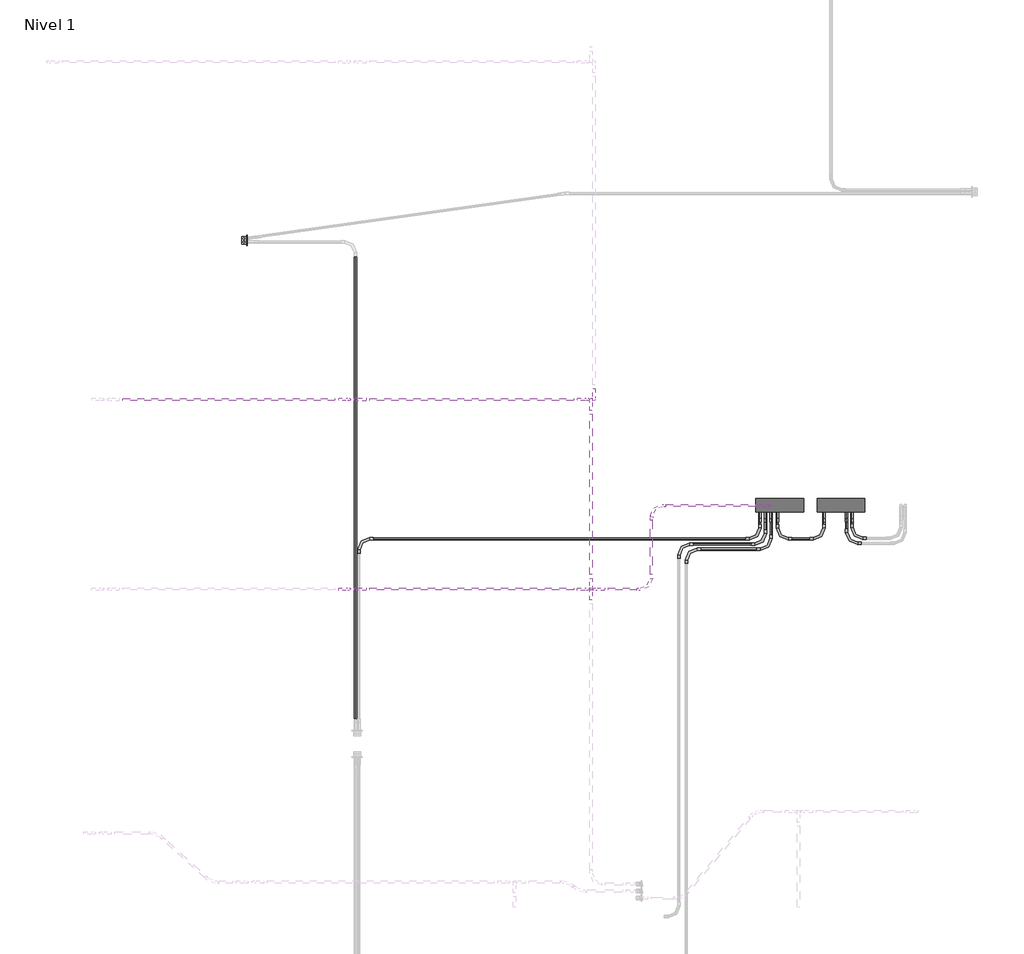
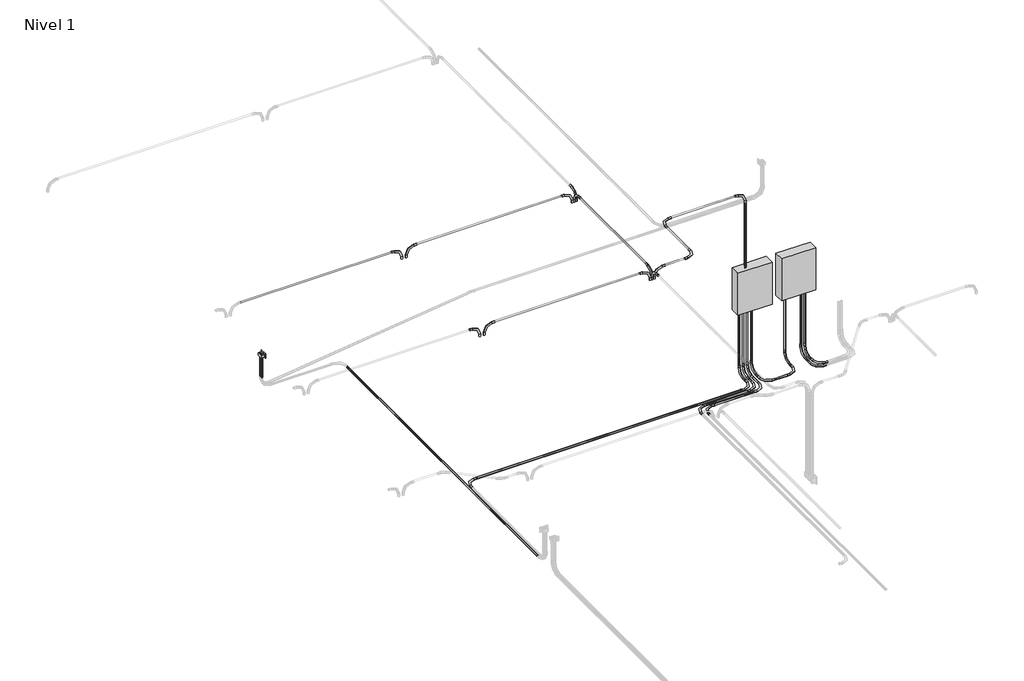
# One storey, part 3 of 4: 31 cable carrier fittings, 29 cable carrier segments, 3 proxies.
"""IFC4 building model written with IfcOpenShell, lengths in millimetres."""

from ifc_helpers import new_model, si_unit, point, frame, frame_2d, origin, place, context, project, spatial, circle_curve, trimmed, segment, composite_curve, outline, extrude, transform, mapped, element, save
from components import proxy_125_a_fe578df2, gfci_180f1b41, m_codo_de_tubo_extremo_liso_pvc_9da73e12, m_codo_de_tubo_extremo_liso_pvc_102f0f41, m_codo_de_tubo_extremo_liso_pvc_ae0e2309

model = new_model("IFC4")

# Units and contexts
model_context = context("Model", 3, world=origin())
ifc_project = project(units=[si_unit("LENGTHUNIT", "METRE", prefix="MILLI")], contexts=[model_context])

# Site, building, storey
site = spatial("IfcSite", under=ifc_project)
building = spatial("IfcBuilding", under=site)
storey = spatial("IfcBuildingStorey", under=building, Name="Nivel 1", Elevation=0.0)

# Proxies
placement = place(None, origin())
proxy_125_a_shape = proxy_125_a_fe578df2(model_context)
element("IfcBuildingElementProxy", 1, Name="M_Cuadro de control de accesorios e iluminación - 480V MLO : 125 A", ObjectType="M_Cuadro de control de accesorios e iluminación - 480V MLO : 125 A", at=placement, inside=storey, context=model_context, shape_type="MappedRepresentation", body=[
    mapped(proxy_125_a_shape, transform((7120.4076022, 9335.0, 826.1274047), x_axis=(1.0, 0.0, 0.0), y_axis=(0.0, 0.0, 1.0), z_axis=(0.0, -1.0, 0.0))),
])
element("IfcBuildingElementProxy", 2, Name="M_Cuadro de control de accesorios e iluminación - 480V MLO : 125 A", ObjectType="M_Cuadro de control de accesorios e iluminación - 480V MLO : 125 A", at=placement, inside=storey, context=model_context, shape_type="MappedRepresentation", body=[
    mapped(proxy_125_a_shape, transform((7770.5429225, 9335.0, 826.1274047), x_axis=(1.0, 0.0, 0.0), y_axis=(0.0, 0.0, 1.0), z_axis=(0.0, -1.0, 0.0))),
])
gfci_shape = gfci_180f1b41(model_context)
element("IfcBuildingElementProxy", 3, Name="Tomacorriente doble 220V : GFCI", ObjectType="Tomacorriente doble 220V : GFCI", at=placement, inside=storey, context=model_context, shape_type="MappedRepresentation", body=[
    mapped(gfci_shape, transform((1465.0, 12220.9929343, 400.0), x_axis=(0.0, 0.0, 1.0), y_axis=(0.0, -1.0, 0.0), z_axis=(1.0, 0.0, 0.0))),
])

# Cable carrier fittings
m_codo_de_tubo_extremo_liso_pvc_shape = m_codo_de_tubo_extremo_liso_pvc_9da73e12(model_context)
element("IfcCableCarrierFitting", 4, ObjectType="M_Codo de tubo - Extremo liso - PVC : CODO POTENCIA", at=placement, inside=storey, context=model_context, shape_type="MappedRepresentation", body=[
    mapped(m_codo_de_tubo_extremo_liso_pvc_shape, transform((6910.094316, 9380.8495563, -99.99), x_axis=(0.0, 1.0, 0.0), y_axis=(0.0, 0.0, 1.0), z_axis=(1.0, 0.0, 0.0))),
])
element("IfcCableCarrierFitting", 5, ObjectType="M_Codo de tubo - Extremo liso - PVC : CODO POTENCIA", at=placement, inside=storey, context=model_context, shape_type="MappedRepresentation", body=[
    mapped(m_codo_de_tubo_extremo_liso_pvc_shape, transform((6970.094316, 9380.8495563, -99.99), x_axis=(0.0, 1.0, 0.0), y_axis=(0.0, 0.0, 1.0), z_axis=(1.0, 0.0, 0.0))),
])
element("IfcCableCarrierFitting", 6, ObjectType="M_Codo de tubo - Extremo liso - PVC : CODO POTENCIA", at=placement, inside=storey, context=model_context, shape_type="MappedRepresentation", body=[
    mapped(m_codo_de_tubo_extremo_liso_pvc_shape, transform((7030.094316, 9380.8495563, -99.99), x_axis=(0.0, 1.0, 0.0), y_axis=(0.0, 0.0, 1.0), z_axis=(1.0, 0.0, 0.0))),
])
element("IfcCableCarrierFitting", 7, ObjectType="M_Codo de tubo - Extremo liso - PVC : CODO POTENCIA", at=placement, inside=storey, context=model_context, shape_type="MappedRepresentation", body=[
    mapped(m_codo_de_tubo_extremo_liso_pvc_shape, transform((7095.094316, 9380.8495563, -99.99), x_axis=(0.0, 1.0, 0.0), y_axis=(0.0, 0.0, 1.0), z_axis=(1.0, 0.0, 0.0))),
])
element("IfcCableCarrierFitting", 8, ObjectType="M_Codo de tubo - Extremo liso - PVC : CODO POTENCIA", at=placement, inside=storey, context=model_context, shape_type="MappedRepresentation", body=[
    mapped(m_codo_de_tubo_extremo_liso_pvc_shape, transform((6910.094316, 9050.8495563, -99.99), x_axis=(1.0, 0.0, 0.0), y_axis=(0.0, 1.0, 0.0), z_axis=(0.0, 0.0, 1.0))),
])
element("IfcCableCarrierFitting", 9, ObjectType="M_Codo de tubo - Extremo liso - PVC : CODO POTENCIA", at=placement, inside=storey, context=model_context, shape_type="MappedRepresentation", body=[
    mapped(m_codo_de_tubo_extremo_liso_pvc_shape, transform((2654.0180466, 9050.8495563, -99.99), x_axis=(-1.0, 0.0, 0.0), y_axis=(0.0, -1.0, 0.0), z_axis=(0.0, 0.0, 1.0))),
])
element("IfcCableCarrierFitting", 10, ObjectType="M_Codo de tubo - Extremo liso - PVC : CODO POTENCIA", at=placement, inside=storey, context=model_context, shape_type="MappedRepresentation", body=[
    mapped(m_codo_de_tubo_extremo_liso_pvc_shape, transform((6970.094316, 8995.8495563, -99.99), x_axis=(1.0, 0.0, 0.0), y_axis=(0.0, 1.0, 0.0), z_axis=(0.0, 0.0, 1.0))),
])
element("IfcCableCarrierFitting", 11, ObjectType="M_Codo de tubo - Extremo liso - PVC : CODO POTENCIA", at=placement, inside=storey, context=model_context, shape_type="MappedRepresentation", body=[
    mapped(m_codo_de_tubo_extremo_liso_pvc_shape, transform((6050.094316, 8995.8495563, -99.99), x_axis=(-1.0, 0.0, 0.0), y_axis=(0.0, -1.0, 0.0), z_axis=(0.0, 0.0, 1.0))),
])
element("IfcCableCarrierFitting", 12, ObjectType="M_Codo de tubo - Extremo liso - PVC : CODO POTENCIA", at=placement, inside=storey, context=model_context, shape_type="MappedRepresentation", body=[
    mapped(m_codo_de_tubo_extremo_liso_pvc_shape, transform((7886.8510983, 9055.836249, -99.99), x_axis=(0.0, -1.0, 0.0), y_axis=(1.0, 0.0, 0.0), z_axis=(0.0, 0.0, 1.0))),
])
element("IfcCableCarrierFitting", 13, ObjectType="M_Codo de tubo - Extremo liso - PVC : CODO POTENCIA", at=placement, inside=storey, context=model_context, shape_type="MappedRepresentation", body=[
    mapped(m_codo_de_tubo_extremo_liso_pvc_shape, transform((7886.8510983, 9380.8495563, -99.99), x_axis=(0.0, 0.0, -1.0), y_axis=(0.0, -1.0, 0.0), z_axis=(-1.0, 0.0, 0.0))),
])
element("IfcCableCarrierFitting", 14, ObjectType="M_Codo de tubo - Extremo liso - PVC : CODO POTENCIA", at=placement, inside=storey, context=model_context, shape_type="MappedRepresentation", body=[
    mapped(m_codo_de_tubo_extremo_liso_pvc_shape, transform((7831.8510983, 9003.336249, -99.99), x_axis=(0.0, -1.0, 0.0), y_axis=(1.0, 0.0, 0.0), z_axis=(0.0, 0.0, 1.0))),
])
element("IfcCableCarrierFitting", 15, ObjectType="M_Codo de tubo - Extremo liso - PVC : CODO POTENCIA", at=placement, inside=storey, context=model_context, shape_type="MappedRepresentation", body=[
    mapped(m_codo_de_tubo_extremo_liso_pvc_shape, transform((7831.8510983, 9380.8495563, -99.99), x_axis=(0.0, 1.0, 0.0), y_axis=(0.0, 0.0, 1.0), z_axis=(1.0, 0.0, 0.0))),
])
element("IfcCableCarrierFitting", 16, ObjectType="M_Codo de tubo - Extremo liso - PVC : CODO POTENCIA", at=placement, inside=storey, context=model_context, shape_type="MappedRepresentation", body=[
    mapped(m_codo_de_tubo_extremo_liso_pvc_shape, transform((7590.094316, 9380.8495563, -99.99), x_axis=(0.0, 1.0, 0.0), y_axis=(0.0, 0.0, 1.0), z_axis=(1.0, 0.0, 0.0))),
])
element("IfcCableCarrierFitting", 17, ObjectType="M_Codo de tubo - Extremo liso - PVC : CODO POTENCIA", at=placement, inside=storey, context=model_context, shape_type="MappedRepresentation", body=[
    mapped(m_codo_de_tubo_extremo_liso_pvc_shape, transform((7590.094316, 9050.8495563, -99.99), x_axis=(1.0, 0.0, 0.0), y_axis=(0.0, 1.0, 0.0), z_axis=(0.0, 0.0, 1.0))),
])
element("IfcCableCarrierFitting", 18, ObjectType="M_Codo de tubo - Extremo liso - PVC : CODO POTENCIA", at=placement, inside=storey, context=model_context, shape_type="MappedRepresentation", body=[
    mapped(m_codo_de_tubo_extremo_liso_pvc_shape, transform((7095.094316, 9050.8495563, -99.99), x_axis=(0.0, -1.0, 0.0), y_axis=(1.0, 0.0, 0.0), z_axis=(0.0, 0.0, 1.0))),
])
element("IfcCableCarrierFitting", 19, ObjectType="M_Codo de tubo - Extremo liso - PVC : CODO POTENCIA", at=placement, inside=storey, context=model_context, shape_type="MappedRepresentation", body=[
    mapped(m_codo_de_tubo_extremo_liso_pvc_shape, transform((7030.094316, 8940.8495563, -99.99), x_axis=(1.0, 0.0, 0.0), y_axis=(0.0, 1.0, 0.0), z_axis=(0.0, 0.0, 1.0))),
])
element("IfcCableCarrierFitting", 20, ObjectType="M_Codo de tubo - Extremo liso - PVC : CODO POTENCIA", at=placement, inside=storey, context=model_context, shape_type="MappedRepresentation", body=[
    mapped(m_codo_de_tubo_extremo_liso_pvc_shape, transform((6130.094316, 8940.8495563, -99.99), x_axis=(-1.0, 0.0, 0.0), y_axis=(0.0, -1.0, 0.0), z_axis=(0.0, 0.0, 1.0))),
])
element("IfcCableCarrierFitting", 21, ObjectType="M_Codo de tubo - Extremo liso - PVC : CODO ILUMINACION", at=placement, inside=storey, context=model_context, shape_type="MappedRepresentation", body=[
    mapped(m_codo_de_tubo_extremo_liso_pvc_shape, transform((2616.5510631, 10530.0787918, 2700.0), x_axis=(0.0, 0.0, 1.0), y_axis=(1.0, 0.0, 0.0), z_axis=(0.0, 1.0, 0.0))),
])
element("IfcCableCarrierFitting", 22, ObjectType="M_Codo de tubo - Extremo liso - PVC : CODO ILUMINACION", at=placement, inside=storey, context=model_context, shape_type="MappedRepresentation", body=[
    mapped(m_codo_de_tubo_extremo_liso_pvc_shape, transform((5149.9573804, 8518.256128, 2700.0), x_axis=(0.0, 0.0, 1.0), y_axis=(1.0, 0.0, 0.0), z_axis=(0.0, 1.0, 0.0))),
])
element("IfcCableCarrierFitting", 23, ObjectType="M_Codo de tubo - Extremo liso - PVC : CODO ILUMINACION", at=placement, inside=storey, context=model_context, shape_type="MappedRepresentation", body=[
    mapped(m_codo_de_tubo_extremo_liso_pvc_shape, transform((2616.5510631, 8518.256128, 2700.0), x_axis=(0.0, 0.0, 1.0), y_axis=(1.0, 0.0, 0.0), z_axis=(0.0, 1.0, 0.0))),
])
element("IfcCableCarrierFitting", 24, ObjectType="M_Codo de tubo - Extremo liso - PVC : CODO ILUMINACION", at=placement, inside=storey, context=model_context, shape_type="MappedRepresentation", body=[
    mapped(m_codo_de_tubo_extremo_liso_pvc_shape, transform((5149.4294415, 10530.8861139, 2700.0), x_axis=(0.0, 0.0, 1.0), y_axis=(0.0, 1.0, 0.0), z_axis=(-1.0, 0.0, 0.0))),
])
element("IfcCableCarrierFitting", 25, ObjectType="M_Codo de tubo - Extremo liso - PVC : CODO ILUMINACION", at=placement, inside=storey, context=model_context, shape_type="MappedRepresentation", body=[
    mapped(m_codo_de_tubo_extremo_liso_pvc_shape, transform((5118.2146465, 8518.3958196, 2700.0), x_axis=(0.0, 0.0, 1.0), y_axis=(0.0, -1.0, 0.0), z_axis=(1.0, 0.0, 0.0))),
])
element("IfcCableCarrierFitting", 26, ObjectType="M_Codo de tubo - Extremo liso - PVC : CODO ILUMINACION", at=placement, inside=storey, context=model_context, shape_type="MappedRepresentation", body=[
    mapped(m_codo_de_tubo_extremo_liso_pvc_shape, transform((7017.4871271, 9404.2031369, 2700.0), x_axis=(0.9999913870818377, -0.004150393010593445, 0.0), y_axis=(0.0, 0.0, -1.0), z_axis=(0.004150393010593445, 0.9999913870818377, 0.0))),
])
element("IfcCableCarrierFitting", 27, ObjectType="M_Codo de tubo - Extremo liso - PVC : CODO ILUMINACION", at=placement, inside=storey, context=model_context, shape_type="MappedRepresentation", body=[
    mapped(m_codo_de_tubo_extremo_liso_pvc_shape, transform((5757.4871271, 8518.256128, 2700.0), x_axis=(1.0, 0.0, 0.0), y_axis=(0.0, 1.0, 0.0), z_axis=(0.0, 0.0, 1.0))),
])
element("IfcCableCarrierFitting", 28, ObjectType="M_Codo de tubo - Extremo liso - PVC : CODO ILUMINACION", at=placement, inside=storey, context=model_context, shape_type="MappedRepresentation", body=[
    mapped(m_codo_de_tubo_extremo_liso_pvc_shape, transform((5118.2146465, 10530.2184834, 2700.0), x_axis=(0.0, 0.0, 1.0), y_axis=(0.0, -1.0, 0.0), z_axis=(1.0, 0.0, 0.0))),
])
m_codo_de_tubo_extremo_liso_pvc_2_shape = m_codo_de_tubo_extremo_liso_pvc_102f0f41(model_context)
element("IfcCableCarrierFitting", 29, ObjectType="M_Codo de tubo - Extremo liso - PVC : CODO ILUMINACION", at=placement, inside=storey, context=model_context, shape_type="MappedRepresentation", body=[
    mapped(m_codo_de_tubo_extremo_liso_pvc_2_shape, transform((2553.0655953, 10530.0787918, 2700.0), x_axis=(0.0, 0.0, 1.0), y_axis=(1.0, 0.0, 0.0), z_axis=(0.0, 1.0, 0.0))),
])
element("IfcCableCarrierFitting", 30, ObjectType="M_Codo de tubo - Extremo liso - PVC : CODO ILUMINACION", at=placement, inside=storey, context=model_context, shape_type="MappedRepresentation", body=[
    mapped(m_codo_de_tubo_extremo_liso_pvc_2_shape, transform((5086.4719126, 10530.0787918, 2700.0), x_axis=(0.0, 0.0, 1.0), y_axis=(1.0, 0.0, 0.0), z_axis=(0.0, 1.0, 0.0))),
])
element("IfcCableCarrierFitting", 31, ObjectType="M_Codo de tubo - Extremo liso - PVC : CODO ILUMINACION", at=placement, inside=storey, context=model_context, shape_type="MappedRepresentation", body=[
    mapped(m_codo_de_tubo_extremo_liso_pvc_2_shape, transform((5086.4719126, 8518.256128, 2700.0), x_axis=(0.0, 0.0, 1.0), y_axis=(1.0, 0.0, 0.0), z_axis=(0.0, 1.0, 0.0))),
])
element("IfcCableCarrierFitting", 32, ObjectType="M_Codo de tubo - Extremo liso - PVC : CODO ILUMINACION", at=placement, inside=storey, context=model_context, shape_type="MappedRepresentation", body=[
    mapped(m_codo_de_tubo_extremo_liso_pvc_2_shape, transform((2553.0655953, 8518.256128, 2700.0), x_axis=(0.0, 0.0, 1.0), y_axis=(1.0, 0.0, 0.0), z_axis=(0.0, 1.0, 0.0))),
])
element("IfcCableCarrierFitting", 33, ObjectType="M_Codo de tubo - Extremo liso - PVC : CODO ILUMINACION", at=placement, inside=storey, context=model_context, shape_type="MappedRepresentation", body=[
    mapped(m_codo_de_tubo_extremo_liso_pvc_2_shape, transform((5118.2146465, 8518.3958196, 2700.0), x_axis=(0.0, 0.0, 1.0), y_axis=(0.0, -1.0, 0.0), z_axis=(1.0, 0.0, 0.0))),
])
m_codo_de_tubo_extremo_liso_pvc_3_shape = m_codo_de_tubo_extremo_liso_pvc_ae0e2309(model_context)
element("IfcCableCarrierFitting", 34, ObjectType="M_Codo de tubo - Extremo liso - PVC : CODO ILUMINACION", at=placement, inside=storey, context=model_context, shape_type="MappedRepresentation", body=[
    mapped(m_codo_de_tubo_extremo_liso_pvc_3_shape, transform((5757.4871271, 9404.2031369, 2700.0), x_axis=(-0.9999998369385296, -0.0005710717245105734, 0.0), y_axis=(0.0005710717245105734, -0.9999998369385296, 0.0), z_axis=(0.0, 0.0, 1.0))),
])

# Cable carrier segments
element("IfcCableCarrierSegment", 35, ObjectType="PVC-SEL, POTENCIA", at=placement, inside=storey, context=model_context, shape_type="SweptSolid", body=[
    extrude(outline(composite_curve([segment(trimmed(circle_curve(frame_2d((-99.99, 6910.094316)), 11.71), [point((-99.99, 6898.384316))], [point((-111.7, 6910.094316))], False, "CARTESIAN"), True, "CONTINUOUS"), segment(trimmed(circle_curve(frame_2d((-99.99, 6910.094316)), 11.71), [point((-111.7, 6910.094316))], [point((-99.99, 6921.804316))], False, "CARTESIAN"), True, "CONTINUOUS"), segment(trimmed(circle_curve(frame_2d((-99.99, 6910.094316)), 11.71), [point((-99.99, 6921.804316))], [point((-88.28, 6910.094316))], False, "CARTESIAN"), True, "CONTINUOUS"), segment(trimmed(circle_curve(frame_2d((-99.99, 6910.094316)), 11.71), [point((-88.28, 6910.094316))], [point((-99.99, 6898.384316))], False, "CARTESIAN"), True, "CONTINUOUS")], self_intersect=False)), frame((0.0, 9203.2495563, 0.0), z_axis=(0.0, 1.0, 0.0), x_axis=(0.0, 0.0, 1.0)), (0.0, 0.0, 1.0), 25.2),
])
element("IfcCableCarrierSegment", 36, ObjectType="PVC-SEL, POTENCIA", at=placement, inside=storey, context=model_context, shape_type="SweptSolid", body=[
    extrude(outline(composite_curve([segment(trimmed(circle_curve(frame_2d((6910.094316, 9380.8495563)), 11.71), [point((6898.384316, 9380.8495563))], [point((6910.094316, 9392.5595563))], False, "CARTESIAN"), True, "CONTINUOUS"), segment(trimmed(circle_curve(frame_2d((6910.094316, 9380.8495563)), 11.71), [point((6910.094316, 9392.5595563))], [point((6921.804316, 9380.8495563))], False, "CARTESIAN"), True, "CONTINUOUS"), segment(trimmed(circle_curve(frame_2d((6910.094316, 9380.8495563)), 11.71), [point((6921.804316, 9380.8495563))], [point((6910.094316, 9369.1395563))], False, "CARTESIAN"), True, "CONTINUOUS"), segment(trimmed(circle_curve(frame_2d((6910.094316, 9380.8495563)), 11.71), [point((6910.094316, 9369.1395563))], [point((6898.384316, 9380.8495563))], False, "CARTESIAN"), True, "CONTINUOUS")], self_intersect=False)), frame((0.0, 0.0, 52.41), z_axis=(0.0, 0.0, 1.0), x_axis=(1.0, 0.0, 0.0)), (0.0, 0.0, 1.0), 817.6),
])
element("IfcCableCarrierSegment", 37, ObjectType="PVC-SEL, POTENCIA", at=placement, inside=storey, context=model_context, shape_type="SweptSolid", body=[
    extrude(outline(composite_curve([segment(trimmed(circle_curve(frame_2d((-99.99, 6970.094316)), 11.71), [point((-99.99, 6958.384316))], [point((-111.7, 6970.094316))], False, "CARTESIAN"), True, "CONTINUOUS"), segment(trimmed(circle_curve(frame_2d((-99.99, 6970.094316)), 11.71), [point((-111.7, 6970.094316))], [point((-99.99, 6981.804316))], False, "CARTESIAN"), True, "CONTINUOUS"), segment(trimmed(circle_curve(frame_2d((-99.99, 6970.094316)), 11.71), [point((-99.99, 6981.804316))], [point((-88.28, 6970.094316))], False, "CARTESIAN"), True, "CONTINUOUS"), segment(trimmed(circle_curve(frame_2d((-99.99, 6970.094316)), 11.71), [point((-88.28, 6970.094316))], [point((-99.99, 6958.384316))], False, "CARTESIAN"), True, "CONTINUOUS")], self_intersect=False)), frame((0.0, 9148.2495563, 0.0), z_axis=(0.0, 1.0, 0.0), x_axis=(0.0, 0.0, 1.0)), (0.0, 0.0, 1.0), 80.2),
])
element("IfcCableCarrierSegment", 38, ObjectType="PVC-SEL, POTENCIA", at=placement, inside=storey, context=model_context, shape_type="SweptSolid", body=[
    extrude(outline(composite_curve([segment(trimmed(circle_curve(frame_2d((6970.094316, 9380.8495563)), 11.71), [point((6958.384316, 9380.8495563))], [point((6970.094316, 9392.5595563))], False, "CARTESIAN"), True, "CONTINUOUS"), segment(trimmed(circle_curve(frame_2d((6970.094316, 9380.8495563)), 11.71), [point((6970.094316, 9392.5595563))], [point((6981.804316, 9380.8495563))], False, "CARTESIAN"), True, "CONTINUOUS"), segment(trimmed(circle_curve(frame_2d((6970.094316, 9380.8495563)), 11.71), [point((6981.804316, 9380.8495563))], [point((6970.094316, 9369.1395563))], False, "CARTESIAN"), True, "CONTINUOUS"), segment(trimmed(circle_curve(frame_2d((6970.094316, 9380.8495563)), 11.71), [point((6970.094316, 9369.1395563))], [point((6958.384316, 9380.8495563))], False, "CARTESIAN"), True, "CONTINUOUS")], self_intersect=False)), frame((0.0, 0.0, 52.41), z_axis=(0.0, 0.0, 1.0), x_axis=(1.0, 0.0, 0.0)), (0.0, 0.0, 1.0), 817.6),
])
element("IfcCableCarrierSegment", 39, ObjectType="PVC-SEL, POTENCIA", at=placement, inside=storey, context=model_context, shape_type="SweptSolid", body=[
    extrude(outline(composite_curve([segment(trimmed(circle_curve(frame_2d((-99.99, 7030.094316)), 11.71), [point((-99.99, 7018.384316))], [point((-111.7, 7030.094316))], False, "CARTESIAN"), True, "CONTINUOUS"), segment(trimmed(circle_curve(frame_2d((-99.99, 7030.094316)), 11.71), [point((-111.7, 7030.094316))], [point((-99.99, 7041.804316))], False, "CARTESIAN"), True, "CONTINUOUS"), segment(trimmed(circle_curve(frame_2d((-99.99, 7030.094316)), 11.71), [point((-99.99, 7041.804316))], [point((-88.28, 7030.094316))], False, "CARTESIAN"), True, "CONTINUOUS"), segment(trimmed(circle_curve(frame_2d((-99.99, 7030.094316)), 11.71), [point((-88.28, 7030.094316))], [point((-99.99, 7018.384316))], False, "CARTESIAN"), True, "CONTINUOUS")], self_intersect=False)), frame((0.0, 9093.2495563, 0.0), z_axis=(0.0, 1.0, 0.0), x_axis=(0.0, 0.0, 1.0)), (0.0, 0.0, 1.0), 135.2),
])
element("IfcCableCarrierSegment", 40, ObjectType="PVC-SEL, POTENCIA", at=placement, inside=storey, context=model_context, shape_type="SweptSolid", body=[
    extrude(outline(composite_curve([segment(trimmed(circle_curve(frame_2d((7030.094316, 9380.8495563)), 11.71), [point((7018.384316, 9380.8495563))], [point((7030.094316, 9392.5595563))], False, "CARTESIAN"), True, "CONTINUOUS"), segment(trimmed(circle_curve(frame_2d((7030.094316, 9380.8495563)), 11.71), [point((7030.094316, 9392.5595563))], [point((7041.804316, 9380.8495563))], False, "CARTESIAN"), True, "CONTINUOUS"), segment(trimmed(circle_curve(frame_2d((7030.094316, 9380.8495563)), 11.71), [point((7041.804316, 9380.8495563))], [point((7030.094316, 9369.1395563))], False, "CARTESIAN"), True, "CONTINUOUS"), segment(trimmed(circle_curve(frame_2d((7030.094316, 9380.8495563)), 11.71), [point((7030.094316, 9369.1395563))], [point((7018.384316, 9380.8495563))], False, "CARTESIAN"), True, "CONTINUOUS")], self_intersect=False)), frame((0.0, 0.0, 52.41), z_axis=(0.0, 0.0, 1.0), x_axis=(1.0, 0.0, 0.0)), (0.0, 0.0, 1.0), 817.6),
])
element("IfcCableCarrierSegment", 41, ObjectType="PVC-SEL, POTENCIA", at=placement, inside=storey, context=model_context, shape_type="SweptSolid", body=[
    extrude(outline(composite_curve([segment(trimmed(circle_curve(frame_2d((-99.99, 7095.094316)), 11.71), [point((-99.99, 7083.384316))], [point((-111.7, 7095.094316))], False, "CARTESIAN"), True, "CONTINUOUS"), segment(trimmed(circle_curve(frame_2d((-99.99, 7095.094316)), 11.71), [point((-111.7, 7095.094316))], [point((-99.99, 7106.804316))], False, "CARTESIAN"), True, "CONTINUOUS"), segment(trimmed(circle_curve(frame_2d((-99.99, 7095.094316)), 11.71), [point((-99.99, 7106.804316))], [point((-88.28, 7095.094316))], False, "CARTESIAN"), True, "CONTINUOUS"), segment(trimmed(circle_curve(frame_2d((-99.99, 7095.094316)), 11.71), [point((-88.28, 7095.094316))], [point((-99.99, 7083.384316))], False, "CARTESIAN"), True, "CONTINUOUS")], self_intersect=False)), frame((0.0, 9203.2495563, 0.0), z_axis=(0.0, 1.0, 0.0), x_axis=(0.0, 0.0, 1.0)), (0.0, 0.0, 1.0), 25.2),
])
element("IfcCableCarrierSegment", 42, ObjectType="PVC-SEL, POTENCIA", at=placement, inside=storey, context=model_context, shape_type="SweptSolid", body=[
    extrude(outline(composite_curve([segment(trimmed(circle_curve(frame_2d((7095.094316, 9380.8495563)), 11.71), [point((7083.384316, 9380.8495563))], [point((7095.094316, 9392.5595563))], False, "CARTESIAN"), True, "CONTINUOUS"), segment(trimmed(circle_curve(frame_2d((7095.094316, 9380.8495563)), 11.71), [point((7095.094316, 9392.5595563))], [point((7106.804316, 9380.8495563))], False, "CARTESIAN"), True, "CONTINUOUS"), segment(trimmed(circle_curve(frame_2d((7095.094316, 9380.8495563)), 11.71), [point((7106.804316, 9380.8495563))], [point((7095.094316, 9369.1395563))], False, "CARTESIAN"), True, "CONTINUOUS"), segment(trimmed(circle_curve(frame_2d((7095.094316, 9380.8495563)), 11.71), [point((7095.094316, 9369.1395563))], [point((7083.384316, 9380.8495563))], False, "CARTESIAN"), True, "CONTINUOUS")], self_intersect=False)), frame((0.0, 0.0, 52.41), z_axis=(0.0, 0.0, 1.0), x_axis=(1.0, 0.0, 0.0)), (0.0, 0.0, 1.0), 817.6),
])
element("IfcCableCarrierSegment", 43, ObjectType="PVC-SEL, POTENCIA", at=placement, inside=storey, context=model_context, shape_type="SweptSolid", body=[
    extrude(outline(composite_curve([segment(trimmed(circle_curve(frame_2d((9050.8495563, -99.99)), 11.71), [point((9062.5595563, -99.99))], [point((9050.8495563, -111.7))], False, "CARTESIAN"), True, "CONTINUOUS"), segment(trimmed(circle_curve(frame_2d((9050.8495563, -99.99)), 11.71), [point((9050.8495563, -111.7))], [point((9039.1395563, -99.99))], False, "CARTESIAN"), True, "CONTINUOUS"), segment(trimmed(circle_curve(frame_2d((9050.8495563, -99.99)), 11.71), [point((9039.1395563, -99.99))], [point((9050.8495563, -88.28))], False, "CARTESIAN"), True, "CONTINUOUS"), segment(trimmed(circle_curve(frame_2d((9050.8495563, -99.99)), 11.71), [point((9050.8495563, -88.28))], [point((9062.5595563, -99.99))], False, "CARTESIAN"), True, "CONTINUOUS")], self_intersect=False)), frame((2806.4180466, 0.0, 0.0), z_axis=(1.0, 0.0, 0.0), x_axis=(0.0, 1.0, 0.0)), (0.0, 0.0, 1.0), 3951.2762694),
])
element("IfcCableCarrierSegment", 44, ObjectType="PVC-SEL, POTENCIA", at=placement, inside=storey, context=model_context, shape_type="SweptSolid", body=[
    extrude(outline(composite_curve([segment(trimmed(circle_curve(frame_2d((-99.99, 2617.9544069)), 11.71), [point((-99.99, 2606.2444069))], [point((-111.7, 2617.9544069))], False, "CARTESIAN"), True, "CONTINUOUS"), segment(trimmed(circle_curve(frame_2d((-99.99, 2617.9544069)), 11.71), [point((-111.7, 2617.9544069))], [point((-99.99, 2629.6644069))], False, "CARTESIAN"), True, "CONTINUOUS"), segment(trimmed(circle_curve(frame_2d((-99.99, 2617.9544069)), 11.71), [point((-99.99, 2629.6644069))], [point((-88.28, 2617.9544069))], False, "CARTESIAN"), True, "CONTINUOUS"), segment(trimmed(circle_curve(frame_2d((-99.99, 2617.9544069)), 11.71), [point((-88.28, 2617.9544069))], [point((-99.99, 2606.2444069))], False, "CARTESIAN"), True, "CONTINUOUS")], self_intersect=False)), frame((0.0, 7137.7628882, 0.0), z_axis=(0.0, 1.0, 0.0), x_axis=(0.0, 0.0, 1.0)), (0.0, 0.0, 1.0), 4912.7982262),
])
element("IfcCableCarrierSegment", 45, ObjectType="PVC-SEL, POTENCIA", at=placement, inside=storey, context=model_context, shape_type="SweptSolid", body=[
    extrude(outline(composite_curve([segment(trimmed(circle_curve(frame_2d((1435.3628882, 12239.0247541)), 11.71), [point((1447.0728882, 12239.0247541))], [point((1435.3628882, 12227.3147541))], False, "CARTESIAN"), True, "CONTINUOUS"), segment(trimmed(circle_curve(frame_2d((1435.3628882, 12239.0247541)), 11.71), [point((1435.3628882, 12227.3147541))], [point((1423.6528882, 12239.0247541))], False, "CARTESIAN"), True, "CONTINUOUS"), segment(trimmed(circle_curve(frame_2d((1435.3628882, 12239.0247541)), 11.71), [point((1423.6528882, 12239.0247541))], [point((1435.3628882, 12250.7347541))], False, "CARTESIAN"), True, "CONTINUOUS"), segment(trimmed(circle_curve(frame_2d((1435.3628882, 12239.0247541)), 11.71), [point((1435.3628882, 12250.7347541))], [point((1447.0728882, 12239.0247541))], False, "CARTESIAN"), True, "CONTINUOUS")], self_intersect=False)), frame((0.0, 0.0, 52.41), z_axis=(0.0, 0.0, 1.0), x_axis=(1.0, 0.0, 0.0)), (0.0, 0.0, 1.0), 327.2920537),
])
element("IfcCableCarrierSegment", 46, ObjectType="PVC-SEL, POTENCIA", at=placement, inside=storey, context=model_context, shape_type="SweptSolid", body=[
    extrude(outline(composite_curve([segment(trimmed(circle_curve(frame_2d((1435.3628882, 12202.9611145)), 11.71), [point((1447.0728882, 12202.9611145))], [point((1435.3628882, 12191.2511145))], False, "CARTESIAN"), True, "CONTINUOUS"), segment(trimmed(circle_curve(frame_2d((1435.3628882, 12202.9611145)), 11.71), [point((1435.3628882, 12191.2511145))], [point((1423.6528882, 12202.9611145))], False, "CARTESIAN"), True, "CONTINUOUS"), segment(trimmed(circle_curve(frame_2d((1435.3628882, 12202.9611145)), 11.71), [point((1423.6528882, 12202.9611145))], [point((1435.3628882, 12214.6711145))], False, "CARTESIAN"), True, "CONTINUOUS"), segment(trimmed(circle_curve(frame_2d((1435.3628882, 12202.9611145)), 11.71), [point((1435.3628882, 12214.6711145))], [point((1447.0728882, 12202.9611145))], False, "CARTESIAN"), True, "CONTINUOUS")], self_intersect=False)), frame((0.0, 0.0, 52.41), z_axis=(0.0, 0.0, 1.0), x_axis=(1.0, 0.0, 0.0)), (0.0, 0.0, 1.0), 327.2920537),
])
element("IfcCableCarrierSegment", 47, ObjectType="PVC-SEL, POTENCIA", at=placement, inside=storey, context=model_context, shape_type="SweptSolid", body=[
    extrude(outline(composite_curve([segment(trimmed(circle_curve(frame_2d((8995.8495563, -99.99)), 11.71), [point((9007.5595563, -99.99))], [point((8995.8495563, -111.7))], False, "CARTESIAN"), True, "CONTINUOUS"), segment(trimmed(circle_curve(frame_2d((8995.8495563, -99.99)), 11.71), [point((8995.8495563, -111.7))], [point((8984.1395563, -99.99))], False, "CARTESIAN"), True, "CONTINUOUS"), segment(trimmed(circle_curve(frame_2d((8995.8495563, -99.99)), 11.71), [point((8984.1395563, -99.99))], [point((8995.8495563, -88.28))], False, "CARTESIAN"), True, "CONTINUOUS"), segment(trimmed(circle_curve(frame_2d((8995.8495563, -99.99)), 11.71), [point((8995.8495563, -88.28))], [point((9007.5595563, -99.99))], False, "CARTESIAN"), True, "CONTINUOUS")], self_intersect=False)), frame((6202.494316, 0.0, 0.0), z_axis=(1.0, 0.0, 0.0), x_axis=(0.0, 1.0, 0.0)), (0.0, 0.0, 1.0), 615.2),
])
element("IfcCableCarrierSegment", 48, ObjectType="PVC-SEL, POTENCIA", at=placement, inside=storey, context=model_context, shape_type="SweptSolid", body=[
    extrude(outline(composite_curve([segment(trimmed(circle_curve(frame_2d((0.0, 11.71)), 11.71), [point((0.0, 23.42))], [point((11.71, 11.71))], False, "CARTESIAN"), True, "CONTINUOUS"), segment(trimmed(circle_curve(frame_2d((0.0, 11.71)), 11.71), [point((11.71, 11.71))], [point((0.0, 0.0))], False, "CARTESIAN"), True, "CONTINUOUS"), segment(trimmed(circle_curve(frame_2d((0.0, 11.71)), 11.71), [point((0.0, 0.0))], [point((-11.71, 11.71))], False, "CARTESIAN"), True, "CONTINUOUS"), segment(trimmed(circle_curve(frame_2d((0.0, 11.71)), 11.71), [point((-11.71, 11.71))], [point((0.0, 23.42))], False, "CARTESIAN"), True, "CONTINUOUS")], self_intersect=False)), frame((7875.1410983, 9208.236249, -99.99), z_axis=(-1.3408687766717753e-12, 1.0, 0.0), x_axis=(0.0, 0.0, 1.0)), (0.0, 0.0, 1.0), 20.2133073),
])
element("IfcCableCarrierSegment", 49, ObjectType="PVC-SEL, POTENCIA", at=placement, inside=storey, context=model_context, shape_type="SweptSolid", body=[
    extrude(outline(composite_curve([segment(trimmed(circle_curve(frame_2d((7886.8510983, 9380.8495563)), 11.71), [point((7898.5610983, 9380.8495563))], [point((7886.8510983, 9369.1395563))], False, "CARTESIAN"), True, "CONTINUOUS"), segment(trimmed(circle_curve(frame_2d((7886.8510983, 9380.8495563)), 11.71), [point((7886.8510983, 9369.1395563))], [point((7875.1410983, 9380.8495563))], False, "CARTESIAN"), True, "CONTINUOUS"), segment(trimmed(circle_curve(frame_2d((7886.8510983, 9380.8495563)), 11.71), [point((7875.1410983, 9380.8495563))], [point((7886.8510983, 9392.5595563))], False, "CARTESIAN"), True, "CONTINUOUS"), segment(trimmed(circle_curve(frame_2d((7886.8510983, 9380.8495563)), 11.71), [point((7886.8510983, 9392.5595563))], [point((7898.5610983, 9380.8495563))], False, "CARTESIAN"), True, "CONTINUOUS")], self_intersect=False)), frame((0.0, 0.0, 52.41), z_axis=(0.0, 0.0, 1.0), x_axis=(1.0, 0.0, 0.0)), (0.0, 0.0, 1.0), 847.59),
])
element("IfcCableCarrierSegment", 50, ObjectType="PVC-SEL, POTENCIA", at=placement, inside=storey, context=model_context, shape_type="SweptSolid", body=[
    extrude(outline(composite_curve([segment(trimmed(circle_curve(frame_2d((-99.99, 7831.8510983)), 11.71), [point((-99.99, 7843.5610983))], [point((-88.28, 7831.8510983))], False, "CARTESIAN"), True, "CONTINUOUS"), segment(trimmed(circle_curve(frame_2d((-99.99, 7831.8510983)), 11.71), [point((-88.28, 7831.8510983))], [point((-99.99, 7820.1410983))], False, "CARTESIAN"), True, "CONTINUOUS"), segment(trimmed(circle_curve(frame_2d((-99.99, 7831.8510983)), 11.71), [point((-99.99, 7820.1410983))], [point((-111.7, 7831.8510983))], False, "CARTESIAN"), True, "CONTINUOUS"), segment(trimmed(circle_curve(frame_2d((-99.99, 7831.8510983)), 11.71), [point((-111.7, 7831.8510983))], [point((-99.99, 7843.5610983))], False, "CARTESIAN"), True, "CONTINUOUS")], self_intersect=False)), frame((0.0, 9155.736249, 0.0), z_axis=(0.0, 1.0, 0.0), x_axis=(0.0, 0.0, 1.0)), (0.0, 0.0, 1.0), 72.7133073),
])
element("IfcCableCarrierSegment", 51, ObjectType="PVC-SEL, POTENCIA", at=placement, inside=storey, context=model_context, shape_type="SweptSolid", body=[
    extrude(outline(composite_curve([segment(trimmed(circle_curve(frame_2d((7831.8510983, 9380.8495563)), 11.71), [point((7843.5610983, 9380.8495563))], [point((7831.8510983, 9369.1395563))], False, "CARTESIAN"), True, "CONTINUOUS"), segment(trimmed(circle_curve(frame_2d((7831.8510983, 9380.8495563)), 11.71), [point((7831.8510983, 9369.1395563))], [point((7820.1410983, 9380.8495563))], False, "CARTESIAN"), True, "CONTINUOUS"), segment(trimmed(circle_curve(frame_2d((7831.8510983, 9380.8495563)), 11.71), [point((7820.1410983, 9380.8495563))], [point((7831.8510983, 9392.5595563))], False, "CARTESIAN"), True, "CONTINUOUS"), segment(trimmed(circle_curve(frame_2d((7831.8510983, 9380.8495563)), 11.71), [point((7831.8510983, 9392.5595563))], [point((7843.5610983, 9380.8495563))], False, "CARTESIAN"), True, "CONTINUOUS")], self_intersect=False)), frame((0.0, 0.0, 52.41), z_axis=(0.0, 0.0, 1.0), x_axis=(1.0, 0.0, 0.0)), (0.0, 0.0, 1.0), 847.59),
])
element("IfcCableCarrierSegment", 52, ObjectType="PVC-SEL, POTENCIA", at=placement, inside=storey, context=model_context, shape_type="SweptSolid", body=[
    extrude(outline(composite_curve([segment(trimmed(circle_curve(frame_2d((-99.99, 7590.094316)), 11.71), [point((-99.99, 7578.384316))], [point((-111.7, 7590.094316))], False, "CARTESIAN"), True, "CONTINUOUS"), segment(trimmed(circle_curve(frame_2d((-99.99, 7590.094316)), 11.71), [point((-111.7, 7590.094316))], [point((-99.99, 7601.804316))], False, "CARTESIAN"), True, "CONTINUOUS"), segment(trimmed(circle_curve(frame_2d((-99.99, 7590.094316)), 11.71), [point((-99.99, 7601.804316))], [point((-88.28, 7590.094316))], False, "CARTESIAN"), True, "CONTINUOUS"), segment(trimmed(circle_curve(frame_2d((-99.99, 7590.094316)), 11.71), [point((-88.28, 7590.094316))], [point((-99.99, 7578.384316))], False, "CARTESIAN"), True, "CONTINUOUS")], self_intersect=False)), frame((0.0, 9203.2495563, 0.0), z_axis=(0.0, 1.0, 0.0), x_axis=(0.0, 0.0, 1.0)), (0.0, 0.0, 1.0), 25.2),
])
element("IfcCableCarrierSegment", 53, ObjectType="PVC-SEL, POTENCIA", at=placement, inside=storey, context=model_context, shape_type="SweptSolid", body=[
    extrude(outline(composite_curve([segment(trimmed(circle_curve(frame_2d((7590.094316, 9380.8495563)), 11.71), [point((7578.384316, 9380.8495563))], [point((7590.094316, 9392.5595563))], False, "CARTESIAN"), True, "CONTINUOUS"), segment(trimmed(circle_curve(frame_2d((7590.094316, 9380.8495563)), 11.71), [point((7590.094316, 9392.5595563))], [point((7601.804316, 9380.8495563))], False, "CARTESIAN"), True, "CONTINUOUS"), segment(trimmed(circle_curve(frame_2d((7590.094316, 9380.8495563)), 11.71), [point((7601.804316, 9380.8495563))], [point((7590.094316, 9369.1395563))], False, "CARTESIAN"), True, "CONTINUOUS"), segment(trimmed(circle_curve(frame_2d((7590.094316, 9380.8495563)), 11.71), [point((7590.094316, 9369.1395563))], [point((7578.384316, 9380.8495563))], False, "CARTESIAN"), True, "CONTINUOUS")], self_intersect=False)), frame((0.0, 0.0, 52.41), z_axis=(0.0, 0.0, 1.0), x_axis=(1.0, 0.0, 0.0)), (0.0, 0.0, 1.0), 817.6),
])
element("IfcCableCarrierSegment", 54, ObjectType="PVC-SEL, POTENCIA", at=placement, inside=storey, context=model_context, shape_type="SweptSolid", body=[
    extrude(outline(composite_curve([segment(trimmed(circle_curve(frame_2d((9050.8495563, -99.99)), 11.71), [point((9062.5595563, -99.99))], [point((9050.8495563, -111.7))], False, "CARTESIAN"), True, "CONTINUOUS"), segment(trimmed(circle_curve(frame_2d((9050.8495563, -99.99)), 11.71), [point((9050.8495563, -111.7))], [point((9039.1395563, -99.99))], False, "CARTESIAN"), True, "CONTINUOUS"), segment(trimmed(circle_curve(frame_2d((9050.8495563, -99.99)), 11.71), [point((9039.1395563, -99.99))], [point((9050.8495563, -88.28))], False, "CARTESIAN"), True, "CONTINUOUS"), segment(trimmed(circle_curve(frame_2d((9050.8495563, -99.99)), 11.71), [point((9050.8495563, -88.28))], [point((9062.5595563, -99.99))], False, "CARTESIAN"), True, "CONTINUOUS")], self_intersect=False)), frame((7247.494316, 0.0, 0.0), z_axis=(1.0, 0.0, 0.0), x_axis=(0.0, 1.0, 0.0)), (0.0, 0.0, 1.0), 190.2),
])
element("IfcCableCarrierSegment", 55, ObjectType="PVC-SEL, POTENCIA", at=placement, inside=storey, context=model_context, shape_type="SweptSolid", body=[
    extrude(outline(composite_curve([segment(trimmed(circle_curve(frame_2d((8940.8495563, -99.99)), 11.71), [point((8952.5595563, -99.99))], [point((8940.8495563, -111.7))], False, "CARTESIAN"), True, "CONTINUOUS"), segment(trimmed(circle_curve(frame_2d((8940.8495563, -99.99)), 11.71), [point((8940.8495563, -111.7))], [point((8929.1395563, -99.99))], False, "CARTESIAN"), True, "CONTINUOUS"), segment(trimmed(circle_curve(frame_2d((8940.8495563, -99.99)), 11.71), [point((8929.1395563, -99.99))], [point((8940.8495563, -88.28))], False, "CARTESIAN"), True, "CONTINUOUS"), segment(trimmed(circle_curve(frame_2d((8940.8495563, -99.99)), 11.71), [point((8940.8495563, -88.28))], [point((8952.5595563, -99.99))], False, "CARTESIAN"), True, "CONTINUOUS")], self_intersect=False)), frame((6282.494316, 0.0, 0.0), z_axis=(1.0, 0.0, 0.0), x_axis=(0.0, 1.0, 0.0)), (0.0, 0.0, 1.0), 595.2),
])
element("IfcCableCarrierSegment", 56, ObjectType="PVC-SEL ILUMINACION", at=placement, inside=storey, context=model_context, shape_type="SweptSolid", body=[
    extrude(outline(composite_curve([segment(trimmed(circle_curve(frame_2d((10530.0787918, 2700.0)), 11.71), [point((10541.7887918, 2700.0))], [point((10530.0787918, 2688.29))], False, "CARTESIAN"), True, "CONTINUOUS"), segment(trimmed(circle_curve(frame_2d((10530.0787918, 2700.0)), 11.71), [point((10530.0787918, 2688.29))], [point((10518.3687918, 2700.0))], False, "CARTESIAN"), True, "CONTINUOUS"), segment(trimmed(circle_curve(frame_2d((10530.0787918, 2700.0)), 11.71), [point((10518.3687918, 2700.0))], [point((10530.0787918, 2711.71))], False, "CARTESIAN"), True, "CONTINUOUS"), segment(trimmed(circle_curve(frame_2d((10530.0787918, 2700.0)), 11.71), [point((10530.0787918, 2711.71))], [point((10541.7887918, 2700.0))], False, "CARTESIAN"), True, "CONTINUOUS")], self_intersect=False)), frame((151.7188014, 0.0, 0.0), z_axis=(1.0, 0.0, 0.0), x_axis=(0.0, 1.0, 0.0)), (0.0, 0.0, 1.0), 2248.9467939),
])
element("IfcCableCarrierSegment", 57, ObjectType="PVC-SEL ILUMINACION", at=placement, inside=storey, context=model_context, shape_type="SweptSolid", body=[
    extrude(outline(composite_curve([segment(trimmed(circle_curve(frame_2d((10530.0787918, 2700.0)), 11.71), [point((10541.7887918, 2700.0))], [point((10530.0787918, 2688.29))], False, "CARTESIAN"), True, "CONTINUOUS"), segment(trimmed(circle_curve(frame_2d((10530.0787918, 2700.0)), 11.71), [point((10530.0787918, 2688.29))], [point((10518.3687918, 2700.0))], False, "CARTESIAN"), True, "CONTINUOUS"), segment(trimmed(circle_curve(frame_2d((10530.0787918, 2700.0)), 11.71), [point((10518.3687918, 2700.0))], [point((10530.0787918, 2711.71))], False, "CARTESIAN"), True, "CONTINUOUS"), segment(trimmed(circle_curve(frame_2d((10530.0787918, 2700.0)), 11.71), [point((10530.0787918, 2711.71))], [point((10541.7887918, 2700.0))], False, "CARTESIAN"), True, "CONTINUOUS")], self_intersect=False)), frame((2768.9510631, 0.0, 0.0), z_axis=(1.0, 0.0, 0.0), x_axis=(0.0, 1.0, 0.0)), (0.0, 0.0, 1.0), 2165.1208496),
])
element("IfcCableCarrierSegment", 58, ObjectType="PVC-SEL ILUMINACION", at=placement, inside=storey, context=model_context, shape_type="SweptSolid", body=[
    extrude(outline(composite_curve([segment(trimmed(circle_curve(frame_2d((8518.256128, 2700.0)), 11.71), [point((8529.966128, 2700.0))], [point((8518.256128, 2688.29))], False, "CARTESIAN"), True, "CONTINUOUS"), segment(trimmed(circle_curve(frame_2d((8518.256128, 2700.0)), 11.71), [point((8518.256128, 2688.29))], [point((8506.546128, 2700.0))], False, "CARTESIAN"), True, "CONTINUOUS"), segment(trimmed(circle_curve(frame_2d((8518.256128, 2700.0)), 11.71), [point((8506.546128, 2700.0))], [point((8518.256128, 2711.71))], False, "CARTESIAN"), True, "CONTINUOUS"), segment(trimmed(circle_curve(frame_2d((8518.256128, 2700.0)), 11.71), [point((8518.256128, 2711.71))], [point((8529.966128, 2700.0))], False, "CARTESIAN"), True, "CONTINUOUS")], self_intersect=False)), frame((2768.9510631, 0.0, 0.0), z_axis=(1.0, 0.0, 0.0), x_axis=(0.0, 1.0, 0.0)), (0.0, 0.0, 1.0), 2165.1208496),
])
element("IfcCableCarrierSegment", 59, ObjectType="PVC-SEL ILUMINACION", at=placement, inside=storey, context=model_context, shape_type="SweptSolid", body=[
    extrude(outline(composite_curve([segment(trimmed(circle_curve(frame_2d((8518.256128, 2700.0)), 11.71), [point((8529.966128, 2700.0))], [point((8518.256128, 2688.29))], False, "CARTESIAN"), True, "CONTINUOUS"), segment(trimmed(circle_curve(frame_2d((8518.256128, 2700.0)), 11.71), [point((8518.256128, 2688.29))], [point((8506.546128, 2700.0))], False, "CARTESIAN"), True, "CONTINUOUS"), segment(trimmed(circle_curve(frame_2d((8518.256128, 2700.0)), 11.71), [point((8506.546128, 2700.0))], [point((8518.256128, 2711.71))], False, "CARTESIAN"), True, "CONTINUOUS"), segment(trimmed(circle_curve(frame_2d((8518.256128, 2700.0)), 11.71), [point((8518.256128, 2711.71))], [point((8529.966128, 2700.0))], False, "CARTESIAN"), True, "CONTINUOUS")], self_intersect=False)), frame((5302.3573804, 0.0, 0.0), z_axis=(1.0, 0.0, 0.0), x_axis=(0.0, 1.0, 0.0)), (0.0, 0.0, 1.0), 302.7297467),
])
element("IfcCableCarrierSegment", 60, ObjectType="PVC-SEL ILUMINACION", at=placement, inside=storey, context=model_context, shape_type="SweptSolid", body=[
    extrude(outline(composite_curve([segment(trimmed(circle_curve(frame_2d((0.0, -11.71)), 11.71), [point((-11.71, -11.71))], [point((0.0, 0.0))], False, "CARTESIAN"), True, "CONTINUOUS"), segment(trimmed(circle_curve(frame_2d((0.0, -11.71)), 11.71), [point((0.0, 0.0))], [point((11.71, -11.71))], False, "CARTESIAN"), True, "CONTINUOUS"), segment(trimmed(circle_curve(frame_2d((0.0, -11.71)), 11.71), [point((11.71, -11.71))], [point((0.0, -23.42))], False, "CARTESIAN"), True, "CONTINUOUS"), segment(trimmed(circle_curve(frame_2d((0.0, -11.71)), 11.71), [point((0.0, -23.42))], [point((-11.71, -11.71))], False, "CARTESIAN"), True, "CONTINUOUS")], self_intersect=False)), frame((5909.8218474, 9404.2901309, 2688.29), z_axis=(0.9999998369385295, 0.000571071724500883, 0.0), x_axis=(0.000571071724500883, -0.9999998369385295, 0.0)), (0.0, 0.0, 1.0), 955.2667481),
])
element("IfcCableCarrierSegment", 61, ObjectType="PVC-SEL ILUMINACION", at=placement, inside=storey, context=model_context, shape_type="SweptSolid", body=[
    extrude(outline(composite_curve([segment(trimmed(circle_curve(frame_2d((7017.4871271, 9404.2031369)), 11.71), [point((7029.1971271, 9404.2031369))], [point((7017.4871271, 9392.4931369))], False, "CARTESIAN"), True, "CONTINUOUS"), segment(trimmed(circle_curve(frame_2d((7017.4871271, 9404.2031369)), 11.71), [point((7017.4871271, 9392.4931369))], [point((7005.7771271, 9404.2031369))], False, "CARTESIAN"), True, "CONTINUOUS"), segment(trimmed(circle_curve(frame_2d((7017.4871271, 9404.2031369)), 11.71), [point((7005.7771271, 9404.2031369))], [point((7017.4871271, 9415.9131369))], False, "CARTESIAN"), True, "CONTINUOUS"), segment(trimmed(circle_curve(frame_2d((7017.4871271, 9404.2031369)), 11.71), [point((7017.4871271, 9415.9131369))], [point((7029.1971271, 9404.2031369))], False, "CARTESIAN"), True, "CONTINUOUS")], self_intersect=False)), frame((0.0, 0.0, 1500.0), z_axis=(0.0, 0.0, 1.0), x_axis=(1.0, 0.0, 0.0)), (0.0, 0.0, 1.0), 1047.6),
])
element("IfcCableCarrierSegment", 62, ObjectType="PVC-SEL ILUMINACION", at=placement, inside=storey, context=model_context, shape_type="SweptSolid", body=[
    extrude(outline(composite_curve([segment(trimmed(circle_curve(frame_2d((2700.0, 5757.4871271)), 11.71), [point((2700.0, 5745.7771271))], [point((2688.29, 5757.4871271))], False, "CARTESIAN"), True, "CONTINUOUS"), segment(trimmed(circle_curve(frame_2d((2700.0, 5757.4871271)), 11.71), [point((2688.29, 5757.4871271))], [point((2700.0, 5769.1971271))], False, "CARTESIAN"), True, "CONTINUOUS"), segment(trimmed(circle_curve(frame_2d((2700.0, 5757.4871271)), 11.71), [point((2700.0, 5769.1971271))], [point((2711.71, 5757.4871271))], False, "CARTESIAN"), True, "CONTINUOUS"), segment(trimmed(circle_curve(frame_2d((2700.0, 5757.4871271)), 11.71), [point((2711.71, 5757.4871271))], [point((2700.0, 5745.7771271))], False, "CARTESIAN"), True, "CONTINUOUS")], self_intersect=False)), frame((0.0, 8670.656128, 0.0), z_axis=(0.0, 1.0, 0.0), x_axis=(0.0, 0.0, 1.0)), (0.0, 0.0, 1.0), 581.2122637),
])
element("IfcCableCarrierSegment", 63, ObjectType="PVC-SEL ILUMINACION", at=placement, inside=storey, context=model_context, shape_type="SweptSolid", body=[
    extrude(outline(composite_curve([segment(trimmed(circle_curve(frame_2d((2700.0, 5118.2146465)), 11.71), [point((2700.0, 5106.5046465))], [point((2688.29, 5118.2146465))], False, "CARTESIAN"), True, "CONTINUOUS"), segment(trimmed(circle_curve(frame_2d((2700.0, 5118.2146465)), 11.71), [point((2688.29, 5118.2146465))], [point((2700.0, 5129.9246465))], False, "CARTESIAN"), True, "CONTINUOUS"), segment(trimmed(circle_curve(frame_2d((2700.0, 5118.2146465)), 11.71), [point((2700.0, 5129.9246465))], [point((2711.71, 5118.2146465))], False, "CARTESIAN"), True, "CONTINUOUS"), segment(trimmed(circle_curve(frame_2d((2700.0, 5118.2146465)), 11.71), [point((2711.71, 5118.2146465))], [point((2700.0, 5106.5046465))], False, "CARTESIAN"), True, "CONTINUOUS")], self_intersect=False)), frame((0.0, 8670.7958196, 0.0), z_axis=(0.0, 1.0, 0.0), x_axis=(0.0, 0.0, 1.0)), (0.0, 0.0, 1.0), 1707.0226638),
])

save(model, "model.ifc")
